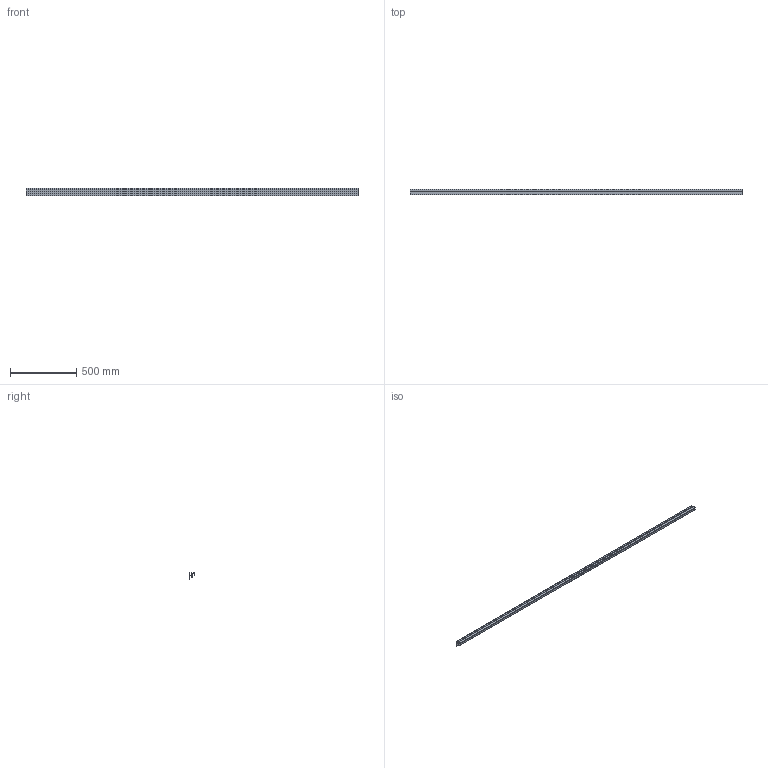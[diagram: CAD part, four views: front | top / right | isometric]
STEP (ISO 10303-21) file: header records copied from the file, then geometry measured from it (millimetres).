
FILE_DESCRIPTION(('STEP AP242'),'1');
FILE_NAME('OPO_51.047.21_volu_schn_3d.stp','2026-03-17T13:39:55',(' '),(' '),'Spatial InterOp 3D',' ',' ');
FILE_SCHEMA(('AP242_MANAGED_MODEL_BASED_3D_ENGINEERING_MIM_LF {1 0 10303 442 1 1 4}'));
Length unit declared in the file: millimetre
Products named in the file (1): 1
Bounding box: 2500 x 42.5 x 53 mm (x, y, z)
Volume: 702396.5 mm3; surface area: 855977.2 mm2
Topology: 1 solids, 1 shells, 74 faces, 557 edges, 844 vertices
Faces by surface type: plane 54, cylinder 20
Entity records: 7291 total; most frequent: DIRECTION 831, CARTESIAN_POINT 767, LINE 435, VECTOR 435, STYLED_ITEM 429, PRESENTATION_STYLE_ASSIGNMENT 429, COLOUR_RGB 429, ORIENTED_EDGE 404
